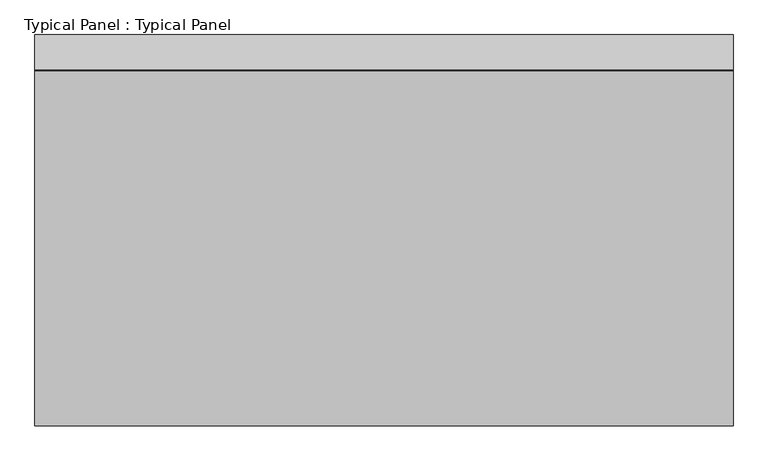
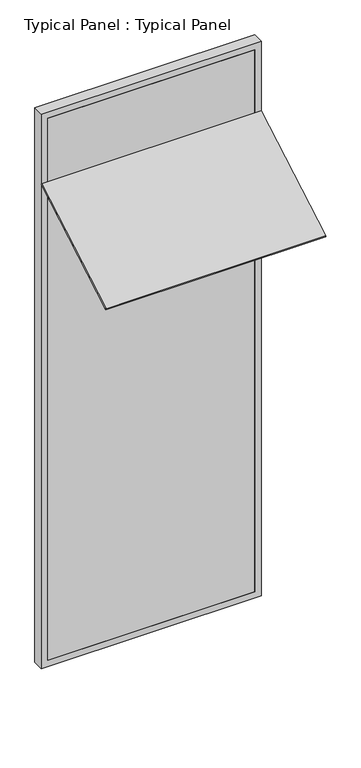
"""IFC4 building model written with IfcOpenShell, lengths in millimetres: plate geometry, Typical Panel : Typical Panel."""

import ifcopenshell
import ifcopenshell.guid

model = None  # the IFC model being written
_history = None  # IfcOwnerHistory: only IFC2X3 demands one
_inside = {}  # id of a spatial element -> (the spatial element, [elements in it])
_under = {}  # id of a project, library or spatial element -> (it, [spatial elements below it])
_declared = {}  # id of a project -> (the project, [libraries it declares])
_typed = {}  # id of a type object -> (the type object, [elements of that type])
_made_of = {}  # id of a material, layer set ... -> (it, [elements and type objects made of it])


def new_model(schema):
    """Start an empty IFC model of exactly this schema.

    Asked for "IFC4X3", IfcOpenShell would pick the latest addendum, in which some entities
    have other attributes; the version numbers below select the first issue.
    IFC2X3 requires an IfcOwnerHistory on every rooted entity: one is made here for all.
    """
    global model, _history
    if schema == "IFC4X3":
        model = ifcopenshell.file(schema_version=(4, 3, 0, 0))
    else:
        model = ifcopenshell.file(schema=schema)
    _inside.clear()
    _under.clear()
    _declared.clear()
    _typed.clear()
    _made_of.clear()
    _history = None
    if model.schema == "IFC2X3":
        org = make("IfcOrganization", Name="unknown")
        user = make(
            "IfcPersonAndOrganization",
            ThePerson=make("IfcPerson", FamilyName="unknown"),
            TheOrganization=org,
        )
        app = make(
            "IfcApplication",
            ApplicationDeveloper=org,
            Version="unknown",
            ApplicationFullName="unknown",
            ApplicationIdentifier="unknown",
        )
        _history = make(
            "IfcOwnerHistory",
            OwningUser=user,
            OwningApplication=app,
            ChangeAction="ADDED",
            CreationDate=0,
        )
    return model


def make(cls, **values):
    """One entity of the class cls with the attributes given. An attribute that is None is left unset."""
    return model.create_entity(
        cls, **{name: value for name, value in values.items() if value is not None}
    )


def rooted(cls, **values):
    """An entity with a GlobalId (a new one), such as an element, a storey or a relation."""
    return make(cls, GlobalId=ifcopenshell.guid.new(), OwnerHistory=_history, **values)


def si_unit(unit_type, name, prefix=None):
    """IfcSIUnit, for example si_unit("LENGTHUNIT", "METRE", prefix="MILLI")."""
    return make("IfcSIUnit", UnitType=unit_type, Prefix=prefix, Name=name)


def assignment(units):
    """IfcUnitAssignment: the units of a project."""
    return None if units is None else make("IfcUnitAssignment", Units=units)


def point(xyz):
    """IfcCartesianPoint."""
    return None if xyz is None else make("IfcCartesianPoint", Coordinates=xyz)


def direction(xyz):
    """IfcDirection."""
    return None if xyz is None else make("IfcDirection", DirectionRatios=xyz)


def frame(location, z_axis=None, x_axis=None):
    """IfcAxis2Placement3D, a coordinate frame: its origin and axes. An axis left out is left unset."""
    return make(
        "IfcAxis2Placement3D",
        Location=point(location),
        Axis=direction(z_axis),
        RefDirection=direction(x_axis),
    )


def origin():
    """The frame at (0, 0, 0) with its axes left unset."""
    return frame((0.0, 0.0, 0.0))


def place(relative_to, where):
    """IfcLocalPlacement: puts the frame where relative to a parent placement (None: the world)."""
    return make(
        "IfcLocalPlacement", PlacementRelTo=relative_to, RelativePlacement=where
    )


def context(
    kind, dimensions, precision=None, world=None, true_north=None, identifier=None
):
    """IfcGeometricRepresentationContext, for example the 3D "Model" context."""
    return make(
        "IfcGeometricRepresentationContext",
        ContextIdentifier=identifier,
        ContextType=kind,
        CoordinateSpaceDimension=dimensions,
        Precision=precision,
        WorldCoordinateSystem=world,
        TrueNorth=true_north,
    )


def project(units=None, contexts=None):
    """IfcProject with its units and contexts."""
    return rooted(
        "IfcProject",
        Name="project",
        RepresentationContexts=contexts,
        UnitsInContext=assignment(units),
    )


def spatial(cls, under=None, at=None, **own):
    """A site, building, storey or space (cls), placed at a placement, below another one or the project."""
    s = rooted(cls, ObjectPlacement=at, **own)
    if under is not None:
        _under.setdefault(under.id(), (under, []))[1].append(s)
    return s


def polyline(points):
    """IfcPolyline through the points."""
    return make("IfcPolyline", Points=[point(p) for p in points])


def outline(outer, holes=None, kind="AREA"):
    """IfcArbitraryClosedProfileDef: a profile drawn as a closed curve; with holes, ...WithVoids."""
    if holes is None:
        return make("IfcArbitraryClosedProfileDef", ProfileType=kind, OuterCurve=outer)
    return make(
        "IfcArbitraryProfileDefWithVoids",
        ProfileType=kind,
        OuterCurve=outer,
        InnerCurves=holes,
    )


def extrude(swept, where, along, depth):
    """IfcExtrudedAreaSolid: the profile swept, set in the frame where, extruded along a direction by depth."""
    return make(
        "IfcExtrudedAreaSolid",
        SweptArea=swept,
        Position=where,
        ExtrudedDirection=direction(along),
        Depth=depth,
    )


def shape(context_of_items, identifier, shape_type, items):
    """IfcShapeRepresentation: the items that make up one representation, for example the "Body"."""
    return make(
        "IfcShapeRepresentation",
        ContextOfItems=context_of_items,
        RepresentationIdentifier=identifier,
        RepresentationType=shape_type,
        Items=items,
    )


def source(mapping_origin, context_of_items, identifier, shape_type, items):
    """IfcRepresentationMap: a shape defined once, which mapped items show again and again."""
    return make(
        "IfcRepresentationMap",
        MappingOrigin=mapping_origin,
        MappedRepresentation=shape(context_of_items, identifier, shape_type, items),
    )


def transform(
    local_origin,
    x_axis=None,
    y_axis=None,
    z_axis=None,
    scale=None,
    scale2=None,
    scale3=None,
    uniform=True,
):
    """IfcCartesianTransformationOperator3D, or its non-uniform kind. x_axis, y_axis, z_axis: its Axis1, 2, 3."""
    if uniform:
        return make(
            "IfcCartesianTransformationOperator3D",
            Axis1=direction(x_axis),
            Axis2=direction(y_axis),
            LocalOrigin=point(local_origin),
            Scale=scale,
            Axis3=direction(z_axis),
        )
    return make(
        "IfcCartesianTransformationOperator3DnonUniform",
        Axis1=direction(x_axis),
        Axis2=direction(y_axis),
        LocalOrigin=point(local_origin),
        Scale=scale,
        Axis3=direction(z_axis),
        Scale2=scale2,
        Scale3=scale3,
    )


def mapped(mapping_source, mapping_target):
    """IfcMappedItem: shows the shape of a source again, moved by a transform."""
    return make(
        "IfcMappedItem", MappingSource=mapping_source, MappingTarget=mapping_target
    )


def made_of(thing, what):
    """Note that an element or type object is made of a material, layer set ...; save() writes the relation."""
    if what is not None:
        _made_of.setdefault(what.id(), (what, []))[1].append(thing)
    return thing


def element(
    cls,
    number,
    at=None,
    inside=None,
    cuts=None,
    type_object=None,
    material=None,
    context=None,
    identifier="Body",
    shape_type=None,
    held_by="IfcProductDefinitionShape",
    body=None,
    shapes=None,
    **own,
):
    """One element of the class cls, such as IfcWall. Its Tag is "e" and its number.

    at: its placement. inside: the storey or other place that contains it. cuts: it is an
    opening in that element (IfcRelVoidsElement). A single representation is given by context,
    identifier, shape_type and body (its items); several are given by shapes. held_by: the class
    of the entity that holds the representations. save() writes the other relations.
    """
    e = rooted(cls, Tag="e%d" % number, ObjectPlacement=at, **own)
    if body is not None:
        shapes = [shape(context, identifier, shape_type, body)]
    if shapes is not None:
        e.Representation = make(held_by, Representations=shapes)
    if inside is not None:
        _inside.setdefault(inside.id(), (inside, []))[1].append(e)
    if cuts is not None:
        rooted(
            "IfcRelVoidsElement", RelatingBuildingElement=cuts, RelatedOpeningElement=e
        )
    if type_object is not None:
        _typed.setdefault(type_object.id(), (type_object, []))[1].append(e)
    return made_of(e, material)


def aggregate(whole, parts):
    """IfcRelAggregates: a whole, such as a stair, and the parts it consists of."""
    return rooted("IfcRelAggregates", RelatingObject=whole, RelatedObjects=parts)


def save(model, path):
    """Write the relations noted so far, then the file.

    IfcRelAggregates (storeys below a building ...), IfcRelContainedInSpatialStructure (elements
    in a storey), IfcRelDefinesByType, IfcRelAssociatesMaterial and IfcRelDeclares: one each for
    every whole, place, type object, material and project.
    """
    for whole, parts in _under.values():
        aggregate(whole, parts)
    for where, things in _inside.values():
        rooted(
            "IfcRelContainedInSpatialStructure",
            RelatedElements=things,
            RelatingStructure=where,
        )
    for kind, things in _typed.values():
        rooted("IfcRelDefinesByType", RelatedObjects=things, RelatingType=kind)
    for what, things in _made_of.values():
        rooted("IfcRelAssociatesMaterial", RelatedObjects=things, RelatingMaterial=what)
    for by, libraries in _declared.values():
        rooted("IfcRelDeclares", RelatingContext=by, RelatedDefinitions=libraries)
    model.write(path)


def typical_panel_typical_panel_994178b1(model_context):
    return source(origin(), model_context, "Body", "SweptSolid", [
        extrude(outline(polyline([(0.0, -880.0), (0.0, 0.0), (1500.0, 0.0), (1500.0, -880.0), (0.0, -880.0)])), frame((750.0, -762.1023553, 3051.339746), z_axis=(0.0, -0.4999999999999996, 0.8660254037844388), x_axis=(-1.0, 0.0, 0.0)), (0.0, 0.0, 1.0), 10.0),
        extrude(outline(polyline([(0.0, -750.0), (0.0, 750.0), (4000.0, 750.0), (4000.0, -750.0), (0.0, -750.0)]), holes=[polyline([(45.0, 705.0), (45.0, -705.0), (3955.0, -705.0), (3955.0, 705.0), (45.0, 705.0)])]), frame((0.0, -1.5797986, 0.0), z_axis=(0.0, 1.0, 0.0), x_axis=(0.0, 0.0, 1.0)), (0.0, 0.0, 1.0), 75.0),
        extrude(outline(polyline([(705.0, -1.5797986), (-705.0, -1.5797986), (-705.0, 13.4202014), (705.0, 13.4202014), (705.0, -1.5797986)])), frame((0.0, 0.0, 45.0), z_axis=(0.0, 0.0, 1.0), x_axis=(1.0, 0.0, 0.0)), (0.0, 0.0, 1.0), 3910.0),
    ])


if __name__ == "__main__":
    model = new_model("IFC4")
    model_context = context("Model", 3, world=origin())
    ifc_project = project(units=[si_unit("LENGTHUNIT", "METRE", prefix="MILLI")], contexts=[model_context])
    site = spatial("IfcSite", under=ifc_project)
    building = spatial("IfcBuilding", under=site)
    placement = place(None, origin())
    typical_panel_typical_panel_shape = typical_panel_typical_panel_994178b1(model_context)
    element("IfcPlate", 1, ObjectType="Typical Panel : Typical Panel", at=placement, inside=building, context=model_context, shape_type="MappedRepresentation", body=[
        mapped(typical_panel_typical_panel_shape, transform((0.0, 0.0, 0.0), x_axis=(1.0, 0.0, 0.0), y_axis=(0.0, 1.0, 0.0), z_axis=(0.0, 0.0, 1.0))),
    ])
    save(model, "model.ifc")
